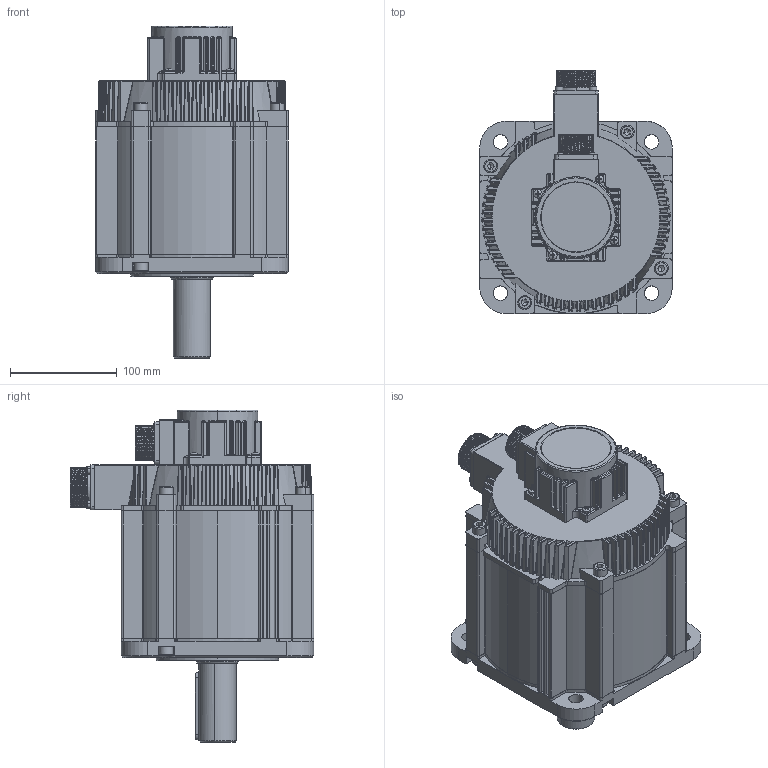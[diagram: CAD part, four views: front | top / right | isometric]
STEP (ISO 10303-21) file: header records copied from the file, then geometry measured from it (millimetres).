
FILE_DESCRIPTION (( 'STEP AP203' ), '1' );
FILE_NAME ('WB180ST-M28415 YD.STEP', '2022-09-06T10:26:33', ( '' ), ( '' ), 'SwSTEP 2.0', 'SolidWorks 2018', '' );
FILE_SCHEMA (( 'CONFIG_CONTROL_DESIGN' ));
Length unit declared in the file: millimetre
Products named in the file (1): WB180ST-M28415 YD
Bounding box: 180 x 227.5 x 310.4 mm (x, y, z)
Volume: 1704494.3 mm3; surface area: 530667.3 mm2
Topology: 30 solids, 30 shells, 2524 faces, 6391 edges, 3727 vertices
Faces by surface type: cylinder 816, plane 726, bspline 392, torus 219, cone 186, sphere 185
Entity records: 98431 total; most frequent: CARTESIAN_POINT 44048, ORIENTED_EDGE 12146, DIRECTION 10318, EDGE_CURVE 6073, AXIS2_PLACEMENT_3D 4299, VERTEX_POINT 3712, EDGE_LOOP 2701, ADVANCED_FACE 2524
